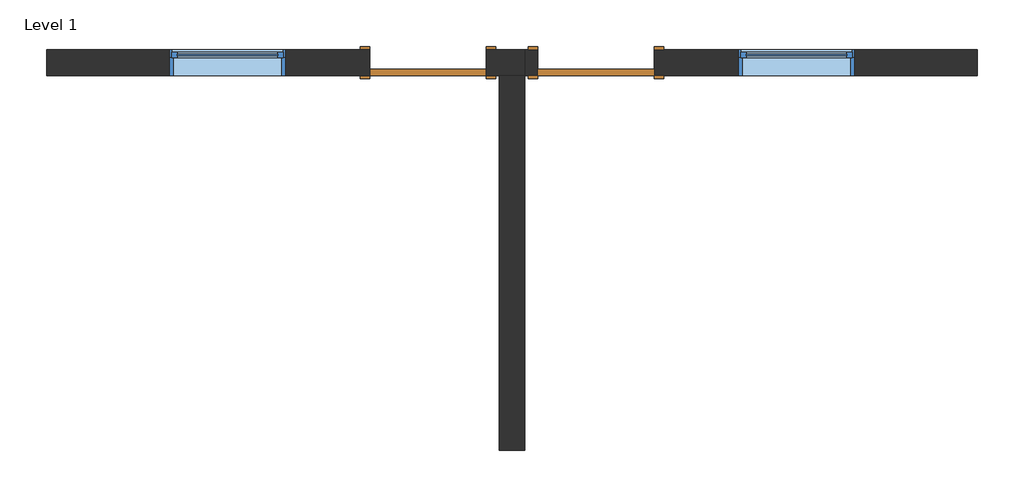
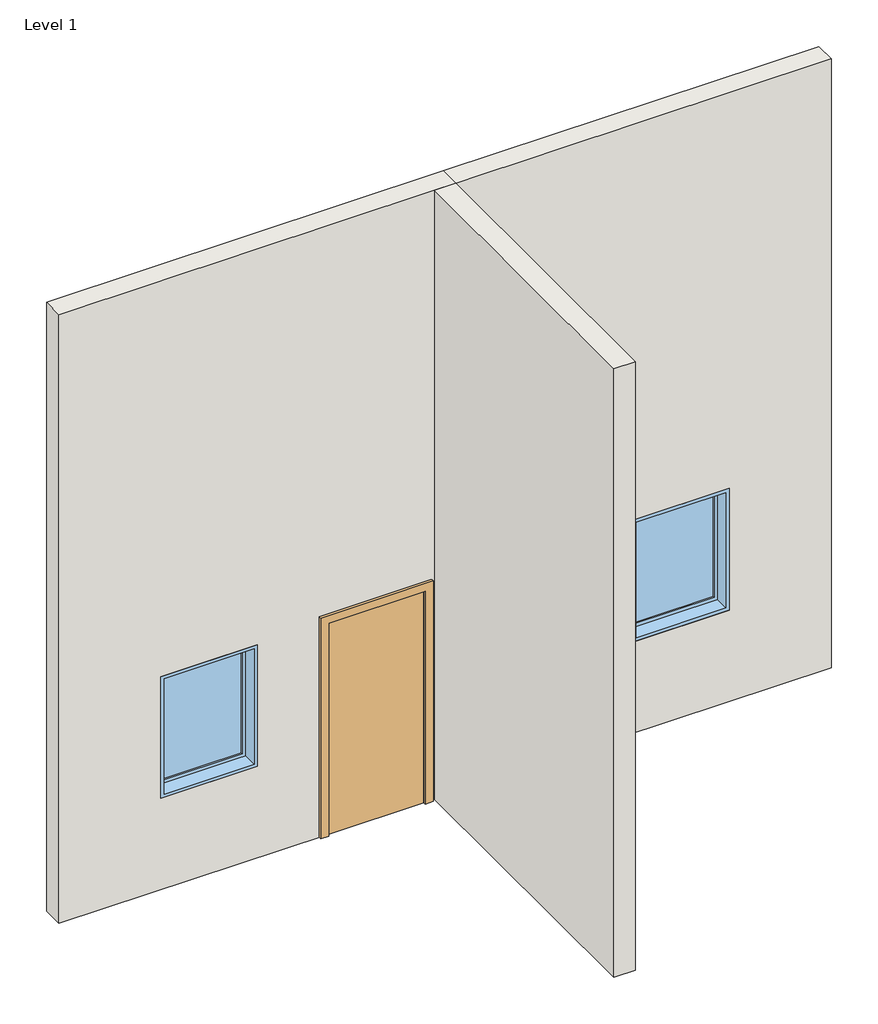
# One storey: 3 walls, 2 doors, 2 windows.
"""IFC4 building model written with IfcOpenShell, lengths in millimetres."""

from ifc_helpers import new_model, si_unit, frame, origin, origin_with_axes, place, context, project, spatial, polyline, outline, extrude, faceted_brep, transform, mapped, element, save
from components import door_719f80de, door_54dd4da4, window_e2841890, window_209efcd5

model = new_model("IFC4")

# Units and contexts
model_context = context("Model", 3, world=origin())
ifc_project = project(units=[si_unit("LENGTHUNIT", "METRE", prefix="MILLI")], contexts=[model_context])

# Site, building, storey
site = spatial("IfcSite", under=ifc_project)
building = spatial("IfcBuilding", under=site)
storey = spatial("IfcBuildingStorey", under=building, Name="Level 1", Elevation=0.0)

# Doors
placement = place(None, origin())
door_shape = door_719f80de(model_context)
element("IfcDoor", 1, ObjectType="Single-Flush : 36\" x 84\"", at=placement, inside=storey, context=model_context, shape_type="MappedRepresentation", body=[
    mapped(door_shape, transform((3022.3397098, -640.2838621, 0.0), x_axis=(1.0, 0.0, 0.0), y_axis=(0.0, 1.0, 0.0), z_axis=(0.0, 0.0, 1.0))),
])
door_2_shape = door_54dd4da4(model_context)
element("IfcDoor", 2, ObjectType="Single-Flush : 36\" x 84\"", at=placement, inside=storey, context=model_context, shape_type="MappedRepresentation", body=[
    mapped(door_2_shape, transform((4343.1397098, -640.2838621, 0.0), x_axis=(-1.0, 0.0, 0.0), y_axis=(0.0, -1.0, 0.0), z_axis=(0.0, 0.0, 1.0))),
])

# Walls
element("IfcWall", 3, ObjectType="Generic - 8\"", at=placement, inside=storey, context=model_context, shape_type="Brep", body=[
    faceted_brep([(3479.5397098, -741.8838621, 2133.6), (3479.5397098, -741.8838621, 0.0), (3581.1397098, -741.8838621, 0.0), (3784.3397098, -741.8838621, 0.0), (3784.3397098, -741.8838621, 6096.0), (3581.1397098, -741.8838621, 6096.0), (25.1397098, -741.8838621, 6096.0), (25.1397098, -741.8838621, 0.0), (2565.1397098, -741.8838621, 0.0), (2565.1397098, -741.8838621, 2133.6), (1904.7397098, -741.8838621, 2133.6), (1904.7397098, -741.8838621, 914.4), (990.3397098, -741.8838621, 914.4), (990.3397098, -741.8838621, 2133.6), (3784.3397098, -538.6838621, 0.0), (3479.5397098, -538.6838621, 0.0), (3479.5397098, -538.6838621, 2133.6), (2565.1397098, -538.6838621, 2133.6), (2565.1397098, -538.6838621, 0.0), (25.1397098, -538.6838621, 0.0), (25.1397098, -538.6838621, 6096.0), (3784.3397098, -538.6838621, 6096.0), (1904.7397098, -538.6838621, 2133.6), (990.3397098, -538.6838621, 2133.6), (990.3397098, -538.6838621, 914.4), (1904.7397098, -538.6838621, 914.4)], [[[0, 1, 2, 3, 4, 5, 6, 7, 8, 9], [10, 11, 12, 13]], [[14, 15, 16, 17, 18, 19, 20, 21], [22, 23, 24, 25]], [[3, 2, 1, 15, 14]], [[8, 7, 19, 18]], [[6, 5, 4, 21, 20]], [[7, 6, 20, 19]], [[4, 3, 14, 21]], [[16, 15, 1, 0]], [[17, 16, 0, 9]], [[18, 17, 9, 8]], [[11, 10, 22, 25]], [[12, 11, 25, 24]], [[13, 12, 24, 23]], [[10, 13, 23, 22]]]),
])
element("IfcWall", 4, ObjectType="Generic - 8\"", at=placement, inside=storey, context=model_context, shape_type="SweptSolid", body=[
    extrude(outline(polyline([(3581.1397098, -3688.2838621), (3581.1397098, -741.8838621), (3784.3397098, -741.8838621), (3784.3397098, -3688.2838621), (3581.1397098, -3688.2838621)])), origin_with_axes(), (0.0, 0.0, 1.0), 6096.0),
])
element("IfcWall", 5, ObjectType="Generic - 8\"", at=placement, inside=storey, context=model_context, shape_type="SweptSolid", body=[
    extrude(outline(polyline([(0.0, 3784.3397098), (0.0, 3885.9397098), (2133.6, 3885.9397098), (2133.6, 4800.3397098), (0.0, 4800.3397098), (0.0, 7340.3397098), (6096.0, 7340.3397098), (6096.0, 3784.3397098), (0.0, 3784.3397098)]), holes=[polyline([(2133.6, 5460.7397098), (2133.6, 6375.1397098), (914.4, 6375.1397098), (914.4, 5460.7397098), (2133.6, 5460.7397098)])]), frame((0.0, -741.8838621, 0.0), z_axis=(0.0, 1.0, 0.0), x_axis=(0.0, 0.0, 1.0)), (0.0, 0.0, 1.0), 203.2),
])

# Windows
window_shape = window_e2841890(model_context)
element("IfcWindow", 6, ObjectType="Fixed : 36\" x 48\"", at=placement, inside=storey, context=model_context, shape_type="MappedRepresentation", body=[
    mapped(window_shape, transform((1485.6397098, -640.2838621, 0.0), x_axis=(1.0, 0.0, 0.0), y_axis=(0.0, 1.0, 0.0), z_axis=(0.0, 0.0, 1.0))),
])
window_2_shape = window_209efcd5(model_context)
element("IfcWindow", 7, ObjectType="Fixed : 36\" x 48\"", at=placement, inside=storey, context=model_context, shape_type="MappedRepresentation", body=[
    mapped(window_2_shape, transform((5879.8397098, -640.2838621, 0.0), x_axis=(-1.0, 0.0, 0.0), y_axis=(0.0, -1.0, 0.0), z_axis=(0.0, 0.0, 1.0))),
])

save(model, "model.ifc")
